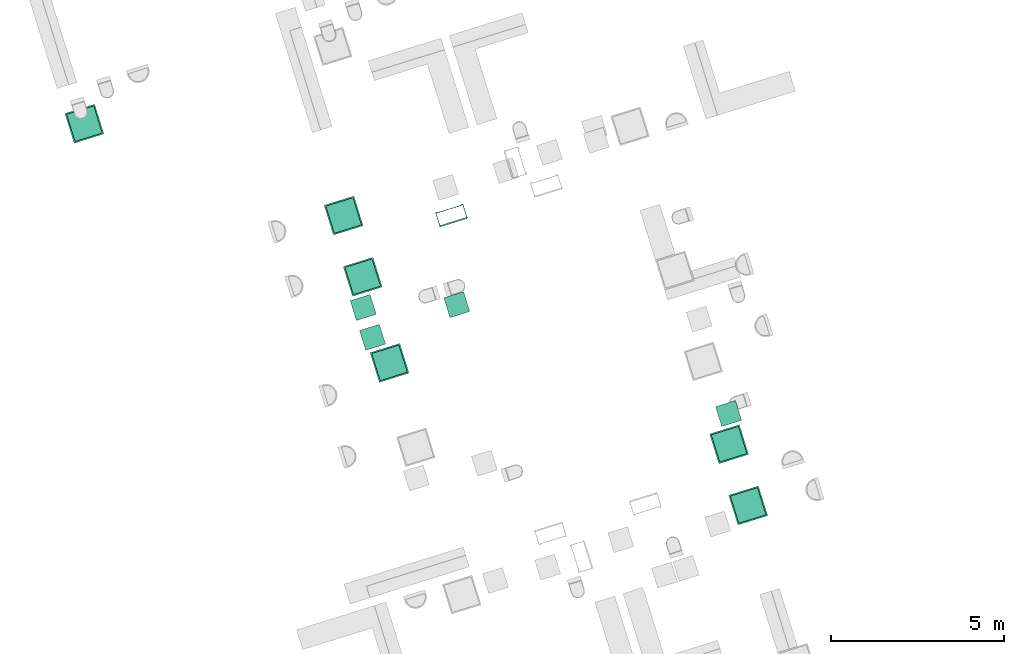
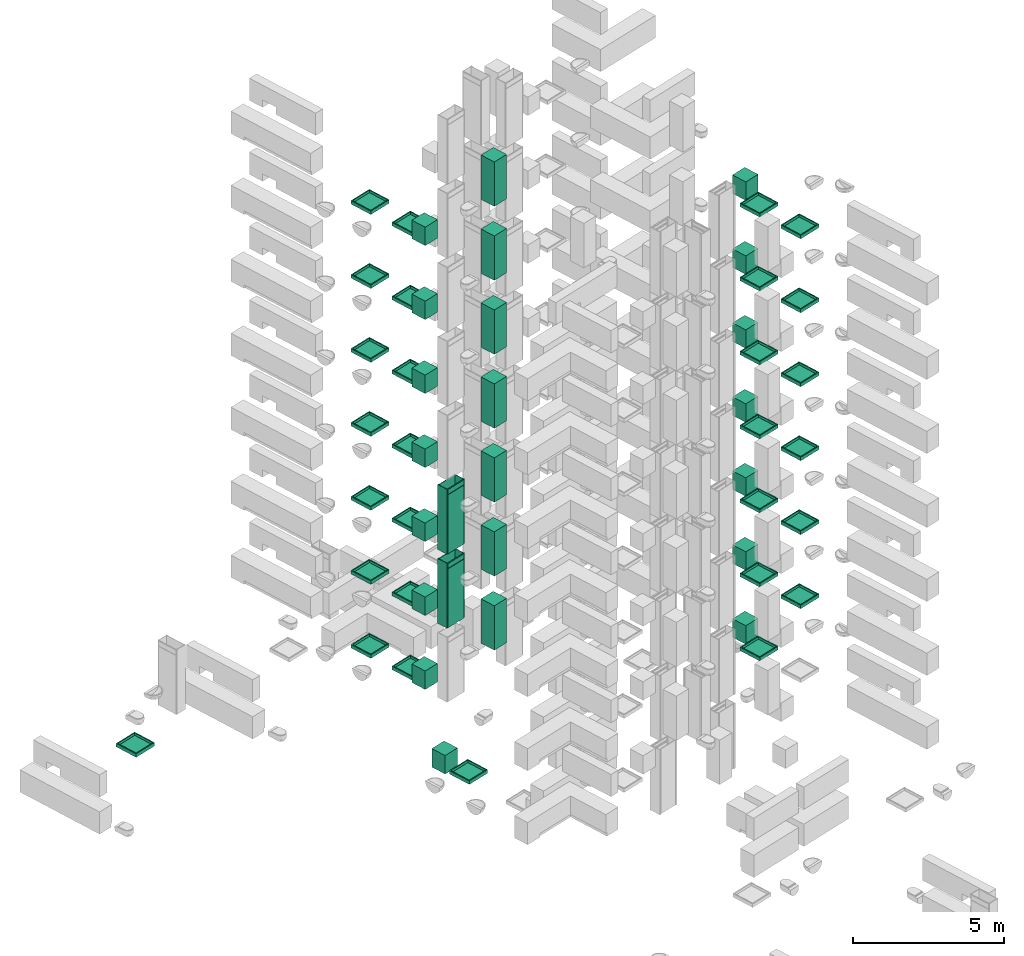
# Not in any storey, part 3 of 20: 29 sanitary terminals, 15 electric appliances, 7 boilers, 2 distribution chamber elements.
"""IFC4 model written with IfcOpenShell, lengths in metres."""

from ifc_helpers import new_model, entity, si_unit, converted_unit, direction, frame, origin, place, context, subcontext, project, indexed_curve, outline, extrude, polygons, source, transform, mapped, material, type_object, type_shapes, element, save


model = new_model("IFC4")

# Units and contexts
model_context = context("Model", 3, precision=1e-05, world=origin(), true_north=direction((6.12323399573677e-17, 1.0)))
body_context = subcontext(model_context, "Body", "Model", "MODEL_VIEW")
ifc_project = project(units=[si_unit("LENGTHUNIT", "METRE"), si_unit("AREAUNIT", "SQUARE_METRE"), si_unit("VOLUMEUNIT", "CUBIC_METRE"), converted_unit("PLANEANGLEUNIT", "DEGREE", entity("IfcPlaneAngleMeasure", 0.0174532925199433), si_unit("PLANEANGLEUNIT", "RADIAN"), dimensions=[0, 0, 0, 0, 0, 0, 0])], contexts=[model_context])

# Distribution chamber elements
ifc_material = material(Name="<Unnamed>")
distribution_chamber_element_type = type_object("IfcDistributionChamberElementType", Name="NLRS_61_GM_UN_Jonka meterkast_gen:Jonka_kast", PredefinedType="METERCHAMBER", material=ifc_material)
shared_shape_1 = source(origin(), body_context, "Body", "SweptSolid", [
    extrude(outline(indexed_curve([(-0.00925000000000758, -0.0230000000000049), (0.0177500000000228, -0.0230000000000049), (0.0177500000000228, 0.0230000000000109), (-0.00925000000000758, 0.0230000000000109), (-0.00925000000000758, 0.00899999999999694), (0.000749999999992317, 0.00899999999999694), (0.000749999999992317, -0.00900000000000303), (-0.00925000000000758, -0.00900000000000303), (-0.00925000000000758, -0.0230000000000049)], self_intersect=False)), frame((-0.408999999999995, -0.409249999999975, 0.0), z_axis=(0.0, 0.0, 1.0), x_axis=(0.0, -1.0, 0.0)), (0.0, 0.0, 1.0), 2.63),
    extrude(outline(indexed_curve([(-0.0092500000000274, -0.0230000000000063), (0.0177500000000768, -0.0230000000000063), (0.0177500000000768, 0.0229999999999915), (-0.00925000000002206, 0.0229999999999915), (-0.00925000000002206, 0.00900000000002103), (0.000749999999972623, 0.00900000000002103), (0.000749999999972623, -0.00900000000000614), (-0.0092500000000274, -0.00900000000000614), (-0.0092500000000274, -0.0230000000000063)], self_intersect=False)), frame((0.409000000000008, -0.409249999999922, 0.0), z_axis=(0.0, 0.0, 1.0), x_axis=(0.0, -1.0, 0.0)), (0.0, 0.0, 1.0), 2.63),
    extrude(outline(indexed_curve([(-0.204999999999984, -0.00899999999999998), (0.204999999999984, -0.00899999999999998), (0.204999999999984, 0.00899999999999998), (-0.204999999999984, 0.00899999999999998), (-0.204999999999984, -0.00899999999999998)], self_intersect=False)), frame((-0.408999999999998, -0.204999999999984, 0.0), z_axis=(0.0, 0.0, 1.0), x_axis=(0.0, -1.0, 0.0)), (0.0, 0.0, 1.0), 2.63),
    extrude(outline(indexed_curve([(-0.204999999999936, -0.00900000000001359), (0.204999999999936, -0.00900000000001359), (0.204999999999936, 0.00900000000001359), (-0.204999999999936, 0.00900000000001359), (-0.204999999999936, -0.00900000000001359)], self_intersect=False)), frame((0.409000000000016, -0.204999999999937, 0.0), z_axis=(0.0, 0.0, 1.0), x_axis=(0.0, -1.0, 0.0)), (0.0, 0.0, 1.0), 2.63),
    extrude(outline(indexed_curve([(-0.399999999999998, -0.00799999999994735), (0.399999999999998, -0.00799999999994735), (0.399999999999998, 0.00799999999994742), (-0.399999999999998, 0.00799999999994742), (-0.399999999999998, -0.00799999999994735)], self_intersect=False)), frame((0.0, -0.434999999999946, 0.00999999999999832), z_axis=(0.0, 0.0, 1.0), x_axis=(-1.0, 0.0, 0.0)), (0.0, 0.0, 1.0), 2.39),
    extrude(outline(indexed_curve([(-0.400000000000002, -0.00899999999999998), (0.400000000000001, -0.00899999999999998), (0.400000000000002, 0.00899999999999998), (-0.400000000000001, 0.00899999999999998), (-0.400000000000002, -0.00899999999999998)], self_intersect=False)), frame((0.0, -0.0280000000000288, 0.0), z_axis=(0.0, 0.0, 1.0), x_axis=(-1.0, 0.0, 0.0)), (0.0, 0.0, 1.0), 2.63),
    extrude(outline(indexed_curve([(-0.023, -0.0095), (0.023, -0.0095), (0.023, 0.0095), (-0.023, 0.0095), (-0.023, -0.0095)], self_intersect=False)), frame((-0.376999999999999, -0.0095, 0.0), z_axis=(0.0, 0.0, 1.0), x_axis=(-1.0, 0.0, 0.0)), (0.0, 0.0, 1.0), 2.63),
    extrude(outline(indexed_curve([(-0.022999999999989, -0.0095), (0.022999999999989, -0.0095), (0.022999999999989, 0.0095), (-0.022999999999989, 0.0095), (-0.022999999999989, -0.0095)], self_intersect=False)), frame((0.377000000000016, -0.00950000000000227, 0.0), z_axis=(0.0, 0.0, 1.0), x_axis=(-1.0, 0.0, 0.0)), (0.0, 0.0, 1.0), 2.63),
    extrude(outline(indexed_curve([(-0.399999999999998, -0.00799999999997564), (0.399999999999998, -0.00799999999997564), (0.399999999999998, 0.00799999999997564), (-0.399999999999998, 0.00799999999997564), (-0.399999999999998, -0.00799999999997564)], self_intersect=False)), frame((0.0, -0.434999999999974, 2.41800000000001), z_axis=(0.0, 0.0, 1.0), x_axis=(-1.0, 0.0, 0.0)), (0.0, 0.0, 1.0), 0.197000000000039),
    extrude(outline(indexed_curve([(-0.0230000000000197, -0.0177500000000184), (0.0230000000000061, -0.0177500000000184), (0.0230000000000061, 0.00925000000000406), (0.00900000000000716, 0.00925000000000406), (0.00900000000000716, -0.00074999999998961), (-0.00899999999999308, -0.00074999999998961), (-0.00899999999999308, 0.00925000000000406), (-0.0230000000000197, 0.00925000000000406), (-0.0230000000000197, -0.0177500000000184)], self_intersect=False)), frame((-0.386, -0.409249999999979, 2.59200000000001), z_axis=(1.0, 0.0, 0.0), x_axis=(0.0, 0.0, -1.0)), (0.0, 0.0, 1.0), 0.772),
    extrude(outline(indexed_curve([(-0.0229999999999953, -0.0177500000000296), (0.0229999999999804, -0.0177500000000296), (0.0229999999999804, 0.00925000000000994), (0.00900000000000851, 0.00925000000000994), (0.00900000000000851, -0.000749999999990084), (-0.00899999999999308, -0.000749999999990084), (-0.00899999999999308, 0.00925000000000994), (-0.0229999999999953, 0.00925000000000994), (-0.0229999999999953, -0.0177500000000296)], self_intersect=False)), frame((-0.386, -0.40924999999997, 2.40900000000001), z_axis=(1.0, 0.0, 0.0), x_axis=(0.0, 0.0, -1.0)), (0.0, 0.0, 1.0), 0.772),
    extrude(outline(indexed_curve([(-0.0230000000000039, -0.0177500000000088), (0.0230000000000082, -0.0177500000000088), (0.0230000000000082, 0.00925000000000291), (0.00899999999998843, 0.00925000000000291), (0.00899999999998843, -0.000749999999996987), (-0.00899999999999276, -0.000749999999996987), (-0.00899999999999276, 0.00925000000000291), (-0.0230000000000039, 0.00925000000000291), (-0.0230000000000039, -0.0177500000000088)], self_intersect=False)), frame((-0.386, -0.409249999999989, 0.0229999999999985), z_axis=(1.0, 0.0, 0.0), x_axis=(0.0, 0.0, -1.0)), (0.0, 0.0, 1.0), 0.772),
])
type_shapes(distribution_chamber_element_type, [shared_shape_1])
placement_1 = place(None, frame((13.1347999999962, 11.9886000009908, 0.0), z_axis=(0.0, 0.0, 1.0), x_axis=(0.954770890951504, 0.297342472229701, 0.0)))
placement_2 = place(placement_1, origin())
placement_3 = place(placement_2, frame((0.0, 0.0, 6.9)))
placement_4 = place(placement_3, origin())
distribution_chamber_element_1_placement = place(placement_4, frame((14.8930000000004, 22.0750000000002, 0.0)))
element("IfcDistributionChamberElement", 1, at=distribution_chamber_element_1_placement, type_object=distribution_chamber_element_type, material=ifc_material, Name="NLRS_61_GM_UN_Jonka meterkast_gen:Jonka_kast", ObjectType="NLRS_61_GM_UN_Jonka meterkast_gen:Jonka_kast", PredefinedType="METERCHAMBER", context=body_context, shape_type="MappedRepresentation", body=[
    mapped(shared_shape_1, transform((0.0, 0.0, 0.0), scale=1.0)),
])
placement_5 = place(placement_2, frame((0.0, 0.0, 9.9)))
placement_6 = place(placement_5, origin())
distribution_chamber_element_2_placement = place(placement_6, frame((14.8930000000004, 22.0750000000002, 0.0)))
element("IfcDistributionChamberElement", 2, at=distribution_chamber_element_2_placement, type_object=distribution_chamber_element_type, material=ifc_material, Name="NLRS_61_GM_UN_Jonka meterkast_gen:Jonka_kast", ObjectType="NLRS_61_GM_UN_Jonka meterkast_gen:Jonka_kast", PredefinedType="METERCHAMBER", context=body_context, shape_type="MappedRepresentation", body=[
    mapped(shared_shape_1, transform((0.0, 0.0, 0.0), scale=1.0)),
])

# Boilers
boiler_type = type_object("IfcBoilerType", Name="NLRS_51_ME_WB_warmtepomp_gen:generiek", PredefinedType="NOTDEFINED", material=ifc_material)
shared_shape_2 = source(origin(), body_context, "Body", "SweptSolid", [
    extrude(outline(indexed_curve([(-0.299999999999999, -0.300000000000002), (0.299999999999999, -0.300000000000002), (0.299999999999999, 0.300000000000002), (-0.299999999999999, 0.300000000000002), (-0.299999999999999, -0.300000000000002)], self_intersect=False)), frame((0.124999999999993, 0.350000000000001, 0.6), z_axis=(0.0, 0.0, 1.0), x_axis=(-1.0, 0.0, 0.0)), (0.0, 0.0, 1.0), 1.8),
])
type_shapes(boiler_type, [shared_shape_2])
placement_7 = place(placement_3, origin())
boiler_1_placement = place(placement_7, frame((13.9250000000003, 19.4750000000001, 0.0), z_axis=(0.0, 0.0, 1.0), x_axis=(0.0, -1.0, 0.0)))
element("IfcBoiler", 3, at=boiler_1_placement, type_object=boiler_type, material=ifc_material, Name="NLRS_51_ME_WB_warmtepomp_gen:generiek", ObjectType="NLRS_51_ME_WB_warmtepomp_gen:generiek", PredefinedType="NOTDEFINED", context=body_context, shape_type="MappedRepresentation", body=[
    mapped(shared_shape_2, transform((0.0, 0.0, 0.0), scale=1.0)),
])
placement_8 = place(placement_5, origin())
boiler_2_placement = place(placement_8, frame((13.9250000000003, 19.4750000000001, 0.0), z_axis=(0.0, 0.0, 1.0), x_axis=(0.0, -1.0, 0.0)))
element("IfcBoiler", 4, at=boiler_2_placement, type_object=boiler_type, material=ifc_material, Name="NLRS_51_ME_WB_warmtepomp_gen:generiek", ObjectType="NLRS_51_ME_WB_warmtepomp_gen:generiek", PredefinedType="NOTDEFINED", context=body_context, shape_type="MappedRepresentation", body=[
    mapped(shared_shape_2, transform((0.0, 0.0, 0.0), scale=1.0)),
])
placement_9 = place(placement_2, frame((0.0, 0.0, 12.9)))
placement_10 = place(placement_9, origin())
boiler_3_placement = place(placement_10, frame((13.9250000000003, 19.4750000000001, 0.0), z_axis=(0.0, 0.0, 1.0), x_axis=(0.0, -1.0, 0.0)))
element("IfcBoiler", 5, at=boiler_3_placement, type_object=boiler_type, material=ifc_material, Name="NLRS_51_ME_WB_warmtepomp_gen:generiek", ObjectType="NLRS_51_ME_WB_warmtepomp_gen:generiek", PredefinedType="NOTDEFINED", context=body_context, shape_type="MappedRepresentation", body=[
    mapped(shared_shape_2, transform((0.0, 0.0, 0.0), scale=1.0)),
])
placement_11 = place(placement_2, frame((0.0, 0.0, 15.9)))
placement_12 = place(placement_11, origin())
boiler_4_placement = place(placement_12, frame((13.9250000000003, 19.4750000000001, 0.0), z_axis=(0.0, 0.0, 1.0), x_axis=(0.0, -1.0, 0.0)))
element("IfcBoiler", 6, at=boiler_4_placement, type_object=boiler_type, material=ifc_material, Name="NLRS_51_ME_WB_warmtepomp_gen:generiek", ObjectType="NLRS_51_ME_WB_warmtepomp_gen:generiek", PredefinedType="NOTDEFINED", context=body_context, shape_type="MappedRepresentation", body=[
    mapped(shared_shape_2, transform((0.0, 0.0, 0.0), scale=1.0)),
])
placement_13 = place(placement_2, frame((0.0, 0.0, 18.9)))
placement_14 = place(placement_13, origin())
boiler_5_placement = place(placement_14, frame((13.9250000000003, 19.4750000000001, 0.0), z_axis=(0.0, 0.0, 1.0), x_axis=(0.0, -1.0, 0.0)))
element("IfcBoiler", 7, at=boiler_5_placement, type_object=boiler_type, material=ifc_material, Name="NLRS_51_ME_WB_warmtepomp_gen:generiek", ObjectType="NLRS_51_ME_WB_warmtepomp_gen:generiek", PredefinedType="NOTDEFINED", context=body_context, shape_type="MappedRepresentation", body=[
    mapped(shared_shape_2, transform((0.0, 0.0, 0.0), scale=1.0)),
])
placement_15 = place(placement_2, frame((0.0, 0.0, 21.9)))
placement_16 = place(placement_15, origin())
boiler_6_placement = place(placement_16, frame((13.9250000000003, 19.4750000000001, 0.0), z_axis=(0.0, 0.0, 1.0), x_axis=(0.0, -1.0, 0.0)))
element("IfcBoiler", 8, at=boiler_6_placement, type_object=boiler_type, material=ifc_material, Name="NLRS_51_ME_WB_warmtepomp_gen:generiek", ObjectType="NLRS_51_ME_WB_warmtepomp_gen:generiek", PredefinedType="NOTDEFINED", context=body_context, shape_type="MappedRepresentation", body=[
    mapped(shared_shape_2, transform((0.0, 0.0, 0.0), scale=1.0)),
])
placement_17 = place(placement_2, frame((0.0, 0.0, 24.9)))
placement_18 = place(placement_17, origin())
boiler_7_placement = place(placement_18, frame((13.9250000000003, 19.4750000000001, 0.0), z_axis=(0.0, 0.0, 1.0), x_axis=(0.0, -1.0, 0.0)))
element("IfcBoiler", 9, at=boiler_7_placement, type_object=boiler_type, material=ifc_material, Name="NLRS_51_ME_WB_warmtepomp_gen:generiek", ObjectType="NLRS_51_ME_WB_warmtepomp_gen:generiek", PredefinedType="NOTDEFINED", context=body_context, shape_type="MappedRepresentation", body=[
    mapped(shared_shape_2, transform((0.0, 0.0, 0.0), scale=1.0)),
])

# Electric appliance
electric_appliance_type = type_object("IfcElectricApplianceType", Name="NLRS_85_SE_UN_opstelplaats wasmachine_gen:wasdroger", PredefinedType="TUMBLEDRYER", material=ifc_material)
shared_shape_3 = source(origin(), body_context, "Body", "SweptSolid", [
    extrude(outline(indexed_curve([(-0.299999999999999, -0.3), (0.299999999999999, -0.3), (0.299999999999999, 0.3), (-0.299999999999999, 0.3), (-0.299999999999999, -0.3)], self_intersect=False)), frame((0.0, 0.349999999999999, 0.0), z_axis=(0.0, 0.0, 1.0), x_axis=(0.0, 1.0, 0.0)), (0.0, 0.0, 1.0), 0.75026866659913),
])
type_shapes(electric_appliance_type, [shared_shape_3])
placement_19 = place(placement_2, frame((0.0, 0.0, 3.9)))
placement_20 = place(placement_19, origin())
electric_appliance_1_placement = place(placement_20, frame((11.6750000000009, 19.525, 0.0), z_axis=(0.0, 0.0, 1.0), x_axis=(-1.0, 0.0, 0.0)))
element("IfcElectricAppliance", 10, at=electric_appliance_1_placement, type_object=electric_appliance_type, material=ifc_material, Name="NLRS_85_SE_UN_opstelplaats wasmachine_gen:wasdroger", ObjectType="NLRS_85_SE_UN_opstelplaats wasmachine_gen:wasdroger", PredefinedType="TUMBLEDRYER", context=body_context, shape_type="MappedRepresentation", body=[
    mapped(shared_shape_3, transform((0.0, 0.0, 0.0), scale=1.0)),
])

# Sanitary terminals
sanitary_terminal_type = type_object("IfcSanitaryTerminalType", Name="NLRS_74_PF_UN_douche_gen:douchebak 900x900mm", PredefinedType="NOTDEFINED", material=ifc_material)
shared_shape_4 = source(origin(), body_context, "Body", "Tessellation", [
    polygons([(1.65924045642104, 0.403499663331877, -9.76), (0.759240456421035, 0.403499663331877, -9.76), (0.759240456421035, -0.496500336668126, -9.76), (1.65924045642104, -0.496500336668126, -9.76), (0.799240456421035, 0.36349966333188, -9.76), (1.61924045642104, 0.36349966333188, -9.76), (1.61924045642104, -0.456500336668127, -9.76), (0.799240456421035, -0.456500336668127, -9.76), (1.65924045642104, 0.403499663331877, -9.9), (1.65924045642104, -0.496500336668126, -9.9), (0.759240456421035, -0.496500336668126, -9.9), (0.759240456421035, 0.403499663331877, -9.9), (1.61924045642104, 0.36349966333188, -9.86), (0.799240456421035, 0.36349966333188, -9.86), (0.799240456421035, -0.456500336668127, -9.86), (1.61924045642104, -0.456500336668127, -9.86)], [[[1, 2, 3, 4], [5, 6, 7, 8]], [[9, 10, 11, 12]], [[2, 1, 9, 12]], [[3, 2, 12, 11]], [[4, 3, 11, 10]], [[1, 4, 10, 9]], [[13, 14, 15, 16]], [[14, 13, 6, 5]], [[15, 14, 5, 8]], [[16, 15, 8, 7]], [[13, 16, 7, 6]]], closed=True),
])
type_shapes(sanitary_terminal_type, [shared_shape_4])
placement_21 = place(placement_19, origin())
sanitary_terminal_1_placement = place(placement_21, frame((5.52849966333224, 26.3157595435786, 9.9), z_axis=(0.0, 0.0, 1.0), x_axis=(0.0, 1.0, 0.0)))
element("IfcSanitaryTerminal", 11, at=sanitary_terminal_1_placement, type_object=sanitary_terminal_type, material=ifc_material, Name="NLRS_74_PF_UN_douche_gen:douchebak 900x900mm", ObjectType="NLRS_74_PF_UN_douche_gen:douchebak 900x900mm", PredefinedType="NOTDEFINED", context=body_context, shape_type="MappedRepresentation", body=[
    mapped(shared_shape_4, transform((0.0, 0.0, 0.0), scale=1.0)),
])
placement_22 = place(placement_5, origin())
sanitary_terminal_2_placement = place(placement_22, frame((21.7842404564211, 11.2784996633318, 9.9), z_axis=(0.0, 0.0, 1.0), x_axis=(-1.0, 0.0, 0.0)))
element("IfcSanitaryTerminal", 12, at=sanitary_terminal_2_placement, type_object=sanitary_terminal_type, material=ifc_material, Name="NLRS_74_PF_UN_douche_gen:douchebak 900x900mm", ObjectType="NLRS_74_PF_UN_douche_gen:douchebak 900x900mm", PredefinedType="NOTDEFINED", context=body_context, shape_type="MappedRepresentation", body=[
    mapped(shared_shape_4, transform((0.0, 0.0, 0.0), scale=1.0)),
])
placement_23 = place(placement_9, origin())
sanitary_terminal_3_placement = place(placement_23, frame((21.7842404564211, 11.2784996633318, 9.90000000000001), z_axis=(0.0, 0.0, 1.0), x_axis=(-1.0, 0.0, 0.0)))
element("IfcSanitaryTerminal", 13, at=sanitary_terminal_3_placement, type_object=sanitary_terminal_type, material=ifc_material, Name="NLRS_74_PF_UN_douche_gen:douchebak 900x900mm", ObjectType="NLRS_74_PF_UN_douche_gen:douchebak 900x900mm", PredefinedType="NOTDEFINED", context=body_context, shape_type="MappedRepresentation", body=[
    mapped(shared_shape_4, transform((0.0, 0.0, 0.0), scale=1.0)),
])
placement_24 = place(placement_11, origin())
sanitary_terminal_4_placement = place(placement_24, frame((21.7842404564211, 11.2784996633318, 9.9), z_axis=(0.0, 0.0, 1.0), x_axis=(-1.0, 0.0, 0.0)))
element("IfcSanitaryTerminal", 14, at=sanitary_terminal_4_placement, type_object=sanitary_terminal_type, material=ifc_material, Name="NLRS_74_PF_UN_douche_gen:douchebak 900x900mm", ObjectType="NLRS_74_PF_UN_douche_gen:douchebak 900x900mm", PredefinedType="NOTDEFINED", context=body_context, shape_type="MappedRepresentation", body=[
    mapped(shared_shape_4, transform((0.0, 0.0, 0.0), scale=1.0)),
])
placement_25 = place(placement_13, origin())
sanitary_terminal_5_placement = place(placement_25, frame((21.7842404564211, 11.2784996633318, 9.9), z_axis=(0.0, 0.0, 1.0), x_axis=(-1.0, 0.0, 0.0)))
element("IfcSanitaryTerminal", 15, at=sanitary_terminal_5_placement, type_object=sanitary_terminal_type, material=ifc_material, Name="NLRS_74_PF_UN_douche_gen:douchebak 900x900mm", ObjectType="NLRS_74_PF_UN_douche_gen:douchebak 900x900mm", PredefinedType="NOTDEFINED", context=body_context, shape_type="MappedRepresentation", body=[
    mapped(shared_shape_4, transform((0.0, 0.0, 0.0), scale=1.0)),
])
placement_26 = place(placement_15, origin())
sanitary_terminal_6_placement = place(placement_26, frame((21.7842404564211, 11.2784996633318, 9.9), z_axis=(0.0, 0.0, 1.0), x_axis=(-1.0, 0.0, 0.0)))
element("IfcSanitaryTerminal", 16, at=sanitary_terminal_6_placement, type_object=sanitary_terminal_type, material=ifc_material, Name="NLRS_74_PF_UN_douche_gen:douchebak 900x900mm", ObjectType="NLRS_74_PF_UN_douche_gen:douchebak 900x900mm", PredefinedType="NOTDEFINED", context=body_context, shape_type="MappedRepresentation", body=[
    mapped(shared_shape_4, transform((0.0, 0.0, 0.0), scale=1.0)),
])
placement_27 = place(placement_17, origin())
sanitary_terminal_7_placement = place(placement_27, frame((21.7842404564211, 11.2784996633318, 9.9), z_axis=(0.0, 0.0, 1.0), x_axis=(-1.0, 0.0, 0.0)))
element("IfcSanitaryTerminal", 17, at=sanitary_terminal_7_placement, type_object=sanitary_terminal_type, material=ifc_material, Name="NLRS_74_PF_UN_douche_gen:douchebak 900x900mm", ObjectType="NLRS_74_PF_UN_douche_gen:douchebak 900x900mm", PredefinedType="NOTDEFINED", context=body_context, shape_type="MappedRepresentation", body=[
    mapped(shared_shape_4, transform((0.0, 0.0, 0.0), scale=1.0)),
])
placement_28 = place(placement_3, origin())
sanitary_terminal_8_placement = place(placement_28, frame((21.7842404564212, 13.1284996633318, 9.9), z_axis=(0.0, 0.0, 1.0), x_axis=(-1.0, 0.0, 0.0)))
element("IfcSanitaryTerminal", 18, at=sanitary_terminal_8_placement, type_object=sanitary_terminal_type, material=ifc_material, Name="NLRS_74_PF_UN_douche_gen:douchebak 900x900mm", ObjectType="NLRS_74_PF_UN_douche_gen:douchebak 900x900mm", PredefinedType="NOTDEFINED", context=body_context, shape_type="MappedRepresentation", body=[
    mapped(shared_shape_4, transform((0.0, 0.0, 0.0), scale=1.0)),
])
placement_29 = place(placement_5, origin())
sanitary_terminal_9_placement = place(placement_29, frame((21.7842404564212, 13.1284996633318, 9.9), z_axis=(0.0, 0.0, 1.0), x_axis=(-1.0, 0.0, 0.0)))
element("IfcSanitaryTerminal", 19, at=sanitary_terminal_9_placement, type_object=sanitary_terminal_type, material=ifc_material, Name="NLRS_74_PF_UN_douche_gen:douchebak 900x900mm", ObjectType="NLRS_74_PF_UN_douche_gen:douchebak 900x900mm", PredefinedType="NOTDEFINED", context=body_context, shape_type="MappedRepresentation", body=[
    mapped(shared_shape_4, transform((0.0, 0.0, 0.0), scale=1.0)),
])
placement_30 = place(placement_9, origin())
sanitary_terminal_10_placement = place(placement_30, frame((21.7842404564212, 13.1284996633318, 9.90000000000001), z_axis=(0.0, 0.0, 1.0), x_axis=(-1.0, 0.0, 0.0)))
element("IfcSanitaryTerminal", 20, at=sanitary_terminal_10_placement, type_object=sanitary_terminal_type, material=ifc_material, Name="NLRS_74_PF_UN_douche_gen:douchebak 900x900mm", ObjectType="NLRS_74_PF_UN_douche_gen:douchebak 900x900mm", PredefinedType="NOTDEFINED", context=body_context, shape_type="MappedRepresentation", body=[
    mapped(shared_shape_4, transform((0.0, 0.0, 0.0), scale=1.0)),
])
placement_31 = place(placement_11, origin())
sanitary_terminal_11_placement = place(placement_31, frame((21.7842404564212, 13.1284996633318, 9.9), z_axis=(0.0, 0.0, 1.0), x_axis=(-1.0, 0.0, 0.0)))
element("IfcSanitaryTerminal", 21, at=sanitary_terminal_11_placement, type_object=sanitary_terminal_type, material=ifc_material, Name="NLRS_74_PF_UN_douche_gen:douchebak 900x900mm", ObjectType="NLRS_74_PF_UN_douche_gen:douchebak 900x900mm", PredefinedType="NOTDEFINED", context=body_context, shape_type="MappedRepresentation", body=[
    mapped(shared_shape_4, transform((0.0, 0.0, 0.0), scale=1.0)),
])
placement_32 = place(placement_13, origin())
sanitary_terminal_12_placement = place(placement_32, frame((21.7842404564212, 13.1284996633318, 9.9), z_axis=(0.0, 0.0, 1.0), x_axis=(-1.0, 0.0, 0.0)))
element("IfcSanitaryTerminal", 22, at=sanitary_terminal_12_placement, type_object=sanitary_terminal_type, material=ifc_material, Name="NLRS_74_PF_UN_douche_gen:douchebak 900x900mm", ObjectType="NLRS_74_PF_UN_douche_gen:douchebak 900x900mm", PredefinedType="NOTDEFINED", context=body_context, shape_type="MappedRepresentation", body=[
    mapped(shared_shape_4, transform((0.0, 0.0, 0.0), scale=1.0)),
])
placement_33 = place(placement_15, origin())
sanitary_terminal_13_placement = place(placement_33, frame((21.7842404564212, 13.1284996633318, 9.9), z_axis=(0.0, 0.0, 1.0), x_axis=(-1.0, 0.0, 0.0)))
element("IfcSanitaryTerminal", 23, at=sanitary_terminal_13_placement, type_object=sanitary_terminal_type, material=ifc_material, Name="NLRS_74_PF_UN_douche_gen:douchebak 900x900mm", ObjectType="NLRS_74_PF_UN_douche_gen:douchebak 900x900mm", PredefinedType="NOTDEFINED", context=body_context, shape_type="MappedRepresentation", body=[
    mapped(shared_shape_4, transform((0.0, 0.0, 0.0), scale=1.0)),
])
placement_34 = place(placement_17, origin())
sanitary_terminal_14_placement = place(placement_34, frame((21.7842404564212, 13.1284996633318, 9.9), z_axis=(0.0, 0.0, 1.0), x_axis=(-1.0, 0.0, 0.0)))
element("IfcSanitaryTerminal", 24, at=sanitary_terminal_14_placement, type_object=sanitary_terminal_type, material=ifc_material, Name="NLRS_74_PF_UN_douche_gen:douchebak 900x900mm", ObjectType="NLRS_74_PF_UN_douche_gen:douchebak 900x900mm", PredefinedType="NOTDEFINED", context=body_context, shape_type="MappedRepresentation", body=[
    mapped(shared_shape_4, transform((0.0, 0.0, 0.0), scale=1.0)),
])
placement_35 = place(placement_3, origin())
sanitary_terminal_15_placement = place(placement_35, frame((10.7157595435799, 22.8215003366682, 9.9)))
element("IfcSanitaryTerminal", 25, at=sanitary_terminal_15_placement, type_object=sanitary_terminal_type, material=ifc_material, Name="NLRS_74_PF_UN_douche_gen:douchebak 900x900mm", ObjectType="NLRS_74_PF_UN_douche_gen:douchebak 900x900mm", PredefinedType="NOTDEFINED", context=body_context, shape_type="MappedRepresentation", body=[
    mapped(shared_shape_4, transform((0.0, 0.0, 0.0), scale=1.0)),
])
placement_36 = place(placement_5, origin())
sanitary_terminal_16_placement = place(placement_36, frame((10.7157595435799, 22.8215003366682, 9.9)))
element("IfcSanitaryTerminal", 26, at=sanitary_terminal_16_placement, type_object=sanitary_terminal_type, material=ifc_material, Name="NLRS_74_PF_UN_douche_gen:douchebak 900x900mm", ObjectType="NLRS_74_PF_UN_douche_gen:douchebak 900x900mm", PredefinedType="NOTDEFINED", context=body_context, shape_type="MappedRepresentation", body=[
    mapped(shared_shape_4, transform((0.0, 0.0, 0.0), scale=1.0)),
])
placement_37 = place(placement_9, origin())
sanitary_terminal_17_placement = place(placement_37, frame((10.7157595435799, 22.8215003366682, 9.90000000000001)))
element("IfcSanitaryTerminal", 27, at=sanitary_terminal_17_placement, type_object=sanitary_terminal_type, material=ifc_material, Name="NLRS_74_PF_UN_douche_gen:douchebak 900x900mm", ObjectType="NLRS_74_PF_UN_douche_gen:douchebak 900x900mm", PredefinedType="NOTDEFINED", context=body_context, shape_type="MappedRepresentation", body=[
    mapped(shared_shape_4, transform((0.0, 0.0, 0.0), scale=1.0)),
])
placement_38 = place(placement_11, origin())
sanitary_terminal_18_placement = place(placement_38, frame((10.7157595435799, 22.8215003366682, 9.9)))
element("IfcSanitaryTerminal", 28, at=sanitary_terminal_18_placement, type_object=sanitary_terminal_type, material=ifc_material, Name="NLRS_74_PF_UN_douche_gen:douchebak 900x900mm", ObjectType="NLRS_74_PF_UN_douche_gen:douchebak 900x900mm", PredefinedType="NOTDEFINED", context=body_context, shape_type="MappedRepresentation", body=[
    mapped(shared_shape_4, transform((0.0, 0.0, 0.0), scale=1.0)),
])
placement_39 = place(placement_13, origin())
sanitary_terminal_19_placement = place(placement_39, frame((10.7157595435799, 22.8215003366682, 9.9)))
element("IfcSanitaryTerminal", 29, at=sanitary_terminal_19_placement, type_object=sanitary_terminal_type, material=ifc_material, Name="NLRS_74_PF_UN_douche_gen:douchebak 900x900mm", ObjectType="NLRS_74_PF_UN_douche_gen:douchebak 900x900mm", PredefinedType="NOTDEFINED", context=body_context, shape_type="MappedRepresentation", body=[
    mapped(shared_shape_4, transform((0.0, 0.0, 0.0), scale=1.0)),
])
placement_40 = place(placement_15, origin())
sanitary_terminal_20_placement = place(placement_40, frame((10.7157595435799, 22.8215003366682, 9.9)))
element("IfcSanitaryTerminal", 30, at=sanitary_terminal_20_placement, type_object=sanitary_terminal_type, material=ifc_material, Name="NLRS_74_PF_UN_douche_gen:douchebak 900x900mm", ObjectType="NLRS_74_PF_UN_douche_gen:douchebak 900x900mm", PredefinedType="NOTDEFINED", context=body_context, shape_type="MappedRepresentation", body=[
    mapped(shared_shape_4, transform((0.0, 0.0, 0.0), scale=1.0)),
])
placement_41 = place(placement_17, origin())
sanitary_terminal_21_placement = place(placement_41, frame((10.7157595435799, 22.8215003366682, 9.9)))
element("IfcSanitaryTerminal", 31, at=sanitary_terminal_21_placement, type_object=sanitary_terminal_type, material=ifc_material, Name="NLRS_74_PF_UN_douche_gen:douchebak 900x900mm", ObjectType="NLRS_74_PF_UN_douche_gen:douchebak 900x900mm", PredefinedType="NOTDEFINED", context=body_context, shape_type="MappedRepresentation", body=[
    mapped(shared_shape_4, transform((0.0, 0.0, 0.0), scale=1.0)),
])
placement_42 = place(placement_3, origin())
sanitary_terminal_22_placement = place(placement_42, frame((10.7157595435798, 20.9715003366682, 9.9)))
element("IfcSanitaryTerminal", 32, at=sanitary_terminal_22_placement, type_object=sanitary_terminal_type, material=ifc_material, Name="NLRS_74_PF_UN_douche_gen:douchebak 900x900mm", ObjectType="NLRS_74_PF_UN_douche_gen:douchebak 900x900mm", PredefinedType="NOTDEFINED", context=body_context, shape_type="MappedRepresentation", body=[
    mapped(shared_shape_4, transform((0.0, 0.0, 0.0), scale=1.0)),
])
placement_43 = place(placement_5, origin())
sanitary_terminal_23_placement = place(placement_43, frame((10.7157595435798, 20.9715003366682, 9.9)))
element("IfcSanitaryTerminal", 33, at=sanitary_terminal_23_placement, type_object=sanitary_terminal_type, material=ifc_material, Name="NLRS_74_PF_UN_douche_gen:douchebak 900x900mm", ObjectType="NLRS_74_PF_UN_douche_gen:douchebak 900x900mm", PredefinedType="NOTDEFINED", context=body_context, shape_type="MappedRepresentation", body=[
    mapped(shared_shape_4, transform((0.0, 0.0, 0.0), scale=1.0)),
])
placement_44 = place(placement_9, origin())
sanitary_terminal_24_placement = place(placement_44, frame((10.7157595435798, 20.9715003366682, 9.90000000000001)))
element("IfcSanitaryTerminal", 34, at=sanitary_terminal_24_placement, type_object=sanitary_terminal_type, material=ifc_material, Name="NLRS_74_PF_UN_douche_gen:douchebak 900x900mm", ObjectType="NLRS_74_PF_UN_douche_gen:douchebak 900x900mm", PredefinedType="NOTDEFINED", context=body_context, shape_type="MappedRepresentation", body=[
    mapped(shared_shape_4, transform((0.0, 0.0, 0.0), scale=1.0)),
])
placement_45 = place(placement_11, origin())
sanitary_terminal_25_placement = place(placement_45, frame((10.7157595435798, 20.9715003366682, 9.9)))
element("IfcSanitaryTerminal", 35, at=sanitary_terminal_25_placement, type_object=sanitary_terminal_type, material=ifc_material, Name="NLRS_74_PF_UN_douche_gen:douchebak 900x900mm", ObjectType="NLRS_74_PF_UN_douche_gen:douchebak 900x900mm", PredefinedType="NOTDEFINED", context=body_context, shape_type="MappedRepresentation", body=[
    mapped(shared_shape_4, transform((0.0, 0.0, 0.0), scale=1.0)),
])
placement_46 = place(placement_13, origin())
sanitary_terminal_26_placement = place(placement_46, frame((10.7157595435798, 20.9715003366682, 9.9)))
element("IfcSanitaryTerminal", 36, at=sanitary_terminal_26_placement, type_object=sanitary_terminal_type, material=ifc_material, Name="NLRS_74_PF_UN_douche_gen:douchebak 900x900mm", ObjectType="NLRS_74_PF_UN_douche_gen:douchebak 900x900mm", PredefinedType="NOTDEFINED", context=body_context, shape_type="MappedRepresentation", body=[
    mapped(shared_shape_4, transform((0.0, 0.0, 0.0), scale=1.0)),
])
placement_47 = place(placement_15, origin())
sanitary_terminal_27_placement = place(placement_47, frame((10.7157595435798, 20.9715003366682, 9.9)))
element("IfcSanitaryTerminal", 37, at=sanitary_terminal_27_placement, type_object=sanitary_terminal_type, material=ifc_material, Name="NLRS_74_PF_UN_douche_gen:douchebak 900x900mm", ObjectType="NLRS_74_PF_UN_douche_gen:douchebak 900x900mm", PredefinedType="NOTDEFINED", context=body_context, shape_type="MappedRepresentation", body=[
    mapped(shared_shape_4, transform((0.0, 0.0, 0.0), scale=1.0)),
])
placement_48 = place(placement_17, origin())
sanitary_terminal_28_placement = place(placement_48, frame((10.7157595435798, 20.9715003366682, 9.9)))
element("IfcSanitaryTerminal", 38, at=sanitary_terminal_28_placement, type_object=sanitary_terminal_type, material=ifc_material, Name="NLRS_74_PF_UN_douche_gen:douchebak 900x900mm", ObjectType="NLRS_74_PF_UN_douche_gen:douchebak 900x900mm", PredefinedType="NOTDEFINED", context=body_context, shape_type="MappedRepresentation", body=[
    mapped(shared_shape_4, transform((0.0, 0.0, 0.0), scale=1.0)),
])
shared_shape_5 = source(origin(), body_context, "Body", "Tessellation", [
    polygons([(1.65924045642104, -0.403499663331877, -3.76), (1.65924045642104, 0.496500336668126, -3.76), (0.759240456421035, 0.496500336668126, -3.76), (0.759240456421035, -0.403499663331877, -3.76), (0.799240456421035, -0.36349966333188, -3.76), (0.799240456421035, 0.456500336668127, -3.76), (1.61924045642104, 0.456500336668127, -3.76), (1.61924045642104, -0.36349966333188, -3.76), (1.65924045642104, -0.403499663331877, -3.9), (0.759240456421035, -0.403499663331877, -3.9), (0.759240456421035, 0.496500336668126, -3.9), (1.65924045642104, 0.496500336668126, -3.9), (1.61924045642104, -0.36349966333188, -3.86), (1.61924045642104, 0.456500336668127, -3.86), (0.799240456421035, 0.456500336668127, -3.86), (0.799240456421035, -0.36349966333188, -3.86)], [[[1, 2, 3, 4], [5, 6, 7, 8]], [[9, 10, 11, 12]], [[4, 10, 9, 1]], [[3, 11, 10, 4]], [[2, 12, 11, 3]], [[1, 9, 12, 2]], [[13, 14, 15, 16]], [[16, 5, 8, 13]], [[15, 6, 5, 16]], [[14, 7, 6, 15]], [[13, 8, 7, 14]]], closed=True),
])
placement_49 = place(placement_19, origin())
sanitary_terminal_29_placement = place(placement_49, frame((10.7157595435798, 18.2784996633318, 3.9)))
element("IfcSanitaryTerminal", 39, at=sanitary_terminal_29_placement, type_object=sanitary_terminal_type, material=ifc_material, Name="NLRS_74_PF_UN_douche_gen:douchebak 900x900mm", ObjectType="NLRS_74_PF_UN_douche_gen:douchebak 900x900mm", PredefinedType="NOTDEFINED", context=body_context, shape_type="MappedRepresentation", body=[
    mapped(shared_shape_5, transform((0.0, 0.0, 0.0), scale=1.0)),
])

# Electric appliances
shared_shape_6 = source(origin(), body_context, "Body", "SweptSolid", [
    extrude(outline(indexed_curve([(-0.3, -0.299999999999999), (0.3, -0.299999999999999), (0.3, 0.299999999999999), (-0.3, 0.299999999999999), (-0.3, -0.299999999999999)], self_intersect=False)), frame((0.0, -0.349999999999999, 0.0), z_axis=(0.0, 0.0, 1.0), x_axis=(-1.0, 0.0, 0.0)), (0.0, 0.0, 1.0), 0.75026866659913),
])
placement_50 = place(placement_3, origin())
electric_appliance_2_placement = place(placement_50, frame((20.8250000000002, 14.375, 0.0)))
element("IfcElectricAppliance", 40, at=electric_appliance_2_placement, type_object=electric_appliance_type, material=ifc_material, Name="NLRS_85_SE_UN_opstelplaats wasmachine_gen:wasdroger", ObjectType="NLRS_85_SE_UN_opstelplaats wasmachine_gen:wasdroger", PredefinedType="TUMBLEDRYER", context=body_context, shape_type="MappedRepresentation", body=[
    mapped(shared_shape_6, transform((0.0, 0.0, 0.0), scale=1.0)),
])
placement_51 = place(placement_5, origin())
electric_appliance_3_placement = place(placement_51, frame((20.8250000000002, 14.375, 0.0)))
element("IfcElectricAppliance", 41, at=electric_appliance_3_placement, type_object=electric_appliance_type, material=ifc_material, Name="NLRS_85_SE_UN_opstelplaats wasmachine_gen:wasdroger", ObjectType="NLRS_85_SE_UN_opstelplaats wasmachine_gen:wasdroger", PredefinedType="TUMBLEDRYER", context=body_context, shape_type="MappedRepresentation", body=[
    mapped(shared_shape_6, transform((0.0, 0.0, 0.0), scale=1.0)),
])
placement_52 = place(placement_9, origin())
electric_appliance_4_placement = place(placement_52, frame((20.8250000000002, 14.375, 0.0)))
element("IfcElectricAppliance", 42, at=electric_appliance_4_placement, type_object=electric_appliance_type, material=ifc_material, Name="NLRS_85_SE_UN_opstelplaats wasmachine_gen:wasdroger", ObjectType="NLRS_85_SE_UN_opstelplaats wasmachine_gen:wasdroger", PredefinedType="TUMBLEDRYER", context=body_context, shape_type="MappedRepresentation", body=[
    mapped(shared_shape_6, transform((0.0, 0.0, 0.0), scale=1.0)),
])
placement_53 = place(placement_11, origin())
electric_appliance_5_placement = place(placement_53, frame((20.8250000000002, 14.375, 0.0)))
element("IfcElectricAppliance", 43, at=electric_appliance_5_placement, type_object=electric_appliance_type, material=ifc_material, Name="NLRS_85_SE_UN_opstelplaats wasmachine_gen:wasdroger", ObjectType="NLRS_85_SE_UN_opstelplaats wasmachine_gen:wasdroger", PredefinedType="TUMBLEDRYER", context=body_context, shape_type="MappedRepresentation", body=[
    mapped(shared_shape_6, transform((0.0, 0.0, 0.0), scale=1.0)),
])
placement_54 = place(placement_13, origin())
electric_appliance_6_placement = place(placement_54, frame((20.8250000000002, 14.375, 0.0)))
element("IfcElectricAppliance", 44, at=electric_appliance_6_placement, type_object=electric_appliance_type, material=ifc_material, Name="NLRS_85_SE_UN_opstelplaats wasmachine_gen:wasdroger", ObjectType="NLRS_85_SE_UN_opstelplaats wasmachine_gen:wasdroger", PredefinedType="TUMBLEDRYER", context=body_context, shape_type="MappedRepresentation", body=[
    mapped(shared_shape_6, transform((0.0, 0.0, 0.0), scale=1.0)),
])
placement_55 = place(placement_15, origin())
electric_appliance_7_placement = place(placement_55, frame((20.8250000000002, 14.375, 0.0)))
element("IfcElectricAppliance", 45, at=electric_appliance_7_placement, type_object=electric_appliance_type, material=ifc_material, Name="NLRS_85_SE_UN_opstelplaats wasmachine_gen:wasdroger", ObjectType="NLRS_85_SE_UN_opstelplaats wasmachine_gen:wasdroger", PredefinedType="TUMBLEDRYER", context=body_context, shape_type="MappedRepresentation", body=[
    mapped(shared_shape_6, transform((0.0, 0.0, 0.0), scale=1.0)),
])
placement_56 = place(placement_17, origin())
electric_appliance_8_placement = place(placement_56, frame((20.8250000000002, 14.375, 0.0)))
element("IfcElectricAppliance", 46, at=electric_appliance_8_placement, type_object=electric_appliance_type, material=ifc_material, Name="NLRS_85_SE_UN_opstelplaats wasmachine_gen:wasdroger", ObjectType="NLRS_85_SE_UN_opstelplaats wasmachine_gen:wasdroger", PredefinedType="TUMBLEDRYER", context=body_context, shape_type="MappedRepresentation", body=[
    mapped(shared_shape_6, transform((0.0, 0.0, 0.0), scale=1.0)),
])
placement_57 = place(placement_3, origin())
electric_appliance_9_placement = place(placement_57, frame((11.6750000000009, 19.7250000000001, 0.0), z_axis=(0.0, 0.0, 1.0), x_axis=(-1.0, 0.0, 0.0)))
element("IfcElectricAppliance", 47, at=electric_appliance_9_placement, type_object=electric_appliance_type, material=ifc_material, Name="NLRS_85_SE_UN_opstelplaats wasmachine_gen:wasdroger", ObjectType="NLRS_85_SE_UN_opstelplaats wasmachine_gen:wasdroger", PredefinedType="TUMBLEDRYER", context=body_context, shape_type="MappedRepresentation", body=[
    mapped(shared_shape_6, transform((0.0, 0.0, 0.0), scale=1.0)),
])
placement_58 = place(placement_5, origin())
electric_appliance_10_placement = place(placement_58, frame((11.6750000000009, 19.7250000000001, 0.0), z_axis=(0.0, 0.0, 1.0), x_axis=(-1.0, 0.0, 0.0)))
element("IfcElectricAppliance", 48, at=electric_appliance_10_placement, type_object=electric_appliance_type, material=ifc_material, Name="NLRS_85_SE_UN_opstelplaats wasmachine_gen:wasdroger", ObjectType="NLRS_85_SE_UN_opstelplaats wasmachine_gen:wasdroger", PredefinedType="TUMBLEDRYER", context=body_context, shape_type="MappedRepresentation", body=[
    mapped(shared_shape_6, transform((0.0, 0.0, 0.0), scale=1.0)),
])
placement_59 = place(placement_9, origin())
electric_appliance_11_placement = place(placement_59, frame((11.6750000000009, 19.7250000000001, 0.0), z_axis=(0.0, 0.0, 1.0), x_axis=(-1.0, 0.0, 0.0)))
element("IfcElectricAppliance", 49, at=electric_appliance_11_placement, type_object=electric_appliance_type, material=ifc_material, Name="NLRS_85_SE_UN_opstelplaats wasmachine_gen:wasdroger", ObjectType="NLRS_85_SE_UN_opstelplaats wasmachine_gen:wasdroger", PredefinedType="TUMBLEDRYER", context=body_context, shape_type="MappedRepresentation", body=[
    mapped(shared_shape_6, transform((0.0, 0.0, 0.0), scale=1.0)),
])
placement_60 = place(placement_11, origin())
electric_appliance_12_placement = place(placement_60, frame((11.6750000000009, 19.7250000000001, 0.0), z_axis=(0.0, 0.0, 1.0), x_axis=(-1.0, 0.0, 0.0)))
element("IfcElectricAppliance", 50, at=electric_appliance_12_placement, type_object=electric_appliance_type, material=ifc_material, Name="NLRS_85_SE_UN_opstelplaats wasmachine_gen:wasdroger", ObjectType="NLRS_85_SE_UN_opstelplaats wasmachine_gen:wasdroger", PredefinedType="TUMBLEDRYER", context=body_context, shape_type="MappedRepresentation", body=[
    mapped(shared_shape_6, transform((0.0, 0.0, 0.0), scale=1.0)),
])
placement_61 = place(placement_13, origin())
electric_appliance_13_placement = place(placement_61, frame((11.6750000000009, 19.7250000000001, 0.0), z_axis=(0.0, 0.0, 1.0), x_axis=(-1.0, 0.0, 0.0)))
element("IfcElectricAppliance", 51, at=electric_appliance_13_placement, type_object=electric_appliance_type, material=ifc_material, Name="NLRS_85_SE_UN_opstelplaats wasmachine_gen:wasdroger", ObjectType="NLRS_85_SE_UN_opstelplaats wasmachine_gen:wasdroger", PredefinedType="TUMBLEDRYER", context=body_context, shape_type="MappedRepresentation", body=[
    mapped(shared_shape_6, transform((0.0, 0.0, 0.0), scale=1.0)),
])
placement_62 = place(placement_15, origin())
electric_appliance_14_placement = place(placement_62, frame((11.6750000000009, 19.7250000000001, 0.0), z_axis=(0.0, 0.0, 1.0), x_axis=(-1.0, 0.0, 0.0)))
element("IfcElectricAppliance", 52, at=electric_appliance_14_placement, type_object=electric_appliance_type, material=ifc_material, Name="NLRS_85_SE_UN_opstelplaats wasmachine_gen:wasdroger", ObjectType="NLRS_85_SE_UN_opstelplaats wasmachine_gen:wasdroger", PredefinedType="TUMBLEDRYER", context=body_context, shape_type="MappedRepresentation", body=[
    mapped(shared_shape_6, transform((0.0, 0.0, 0.0), scale=1.0)),
])
placement_63 = place(placement_17, origin())
electric_appliance_15_placement = place(placement_63, frame((11.6750000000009, 19.7250000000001, 0.0), z_axis=(0.0, 0.0, 1.0), x_axis=(-1.0, 0.0, 0.0)))
element("IfcElectricAppliance", 53, at=electric_appliance_15_placement, type_object=electric_appliance_type, material=ifc_material, Name="NLRS_85_SE_UN_opstelplaats wasmachine_gen:wasdroger", ObjectType="NLRS_85_SE_UN_opstelplaats wasmachine_gen:wasdroger", PredefinedType="TUMBLEDRYER", context=body_context, shape_type="MappedRepresentation", body=[
    mapped(shared_shape_6, transform((0.0, 0.0, 0.0), scale=1.0)),
])

save(model, "model.ifc")
